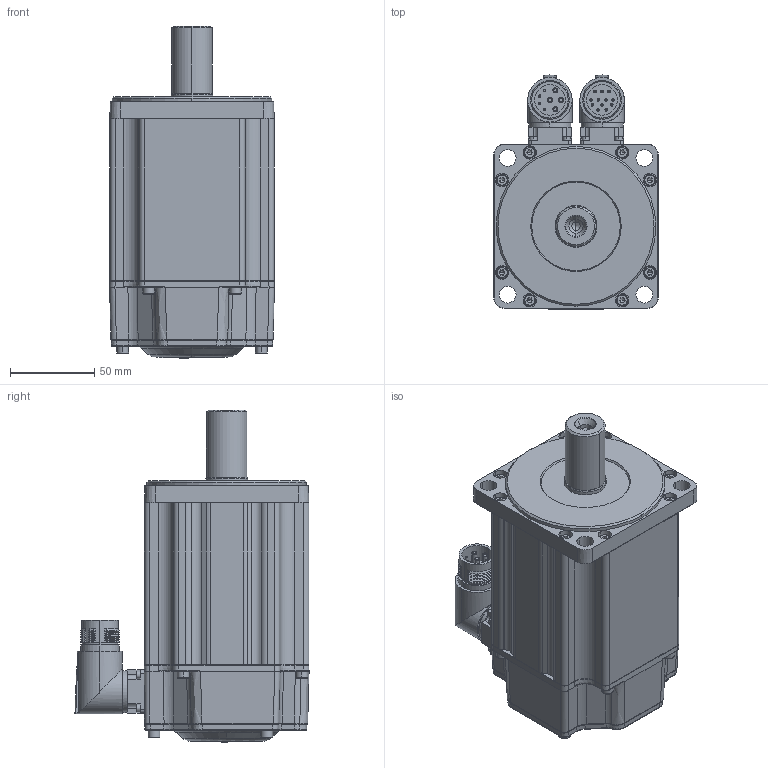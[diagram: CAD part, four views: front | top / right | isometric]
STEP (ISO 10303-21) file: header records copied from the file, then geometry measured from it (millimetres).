
FILE_DESCRIPTION (( 'STEP AP203' ), '1' );
FILE_NAME ('MC20-100-3L30-N152-0¡õPL-NNNN.STEP', '2025-07-29T14:47:58', ( '' ), ( '' ), 'SwSTEP 2.0', 'SolidWorks 2014', '' );
FILE_SCHEMA (( 'CONFIG_CONTROL_DESIGN' ));
Products named in the file (1): MC20-100-3L30-N152-0¡õPL-NNNN
Bounding box: 98.04 x 139.27 x 197.49 mm (x, y, z)
Volume: 1442018 mm3; surface area: 190344.7 mm2
Topology: 31 solids, 31 shells, 2062 faces, 4785 edges, 2837 vertices
Faces by surface type: plane 759, cylinder 542, cone 363, bspline 211, torus 182, sphere 5
Entity records: 64362 total; most frequent: CARTESIAN_POINT 18685, DIRECTION 9633, ORIENTED_EDGE 9382, EDGE_CURVE 4691, AXIS2_PLACEMENT_3D 3761, VERTEX_POINT 2837, EDGE_LOOP 2280, VECTOR 2111
